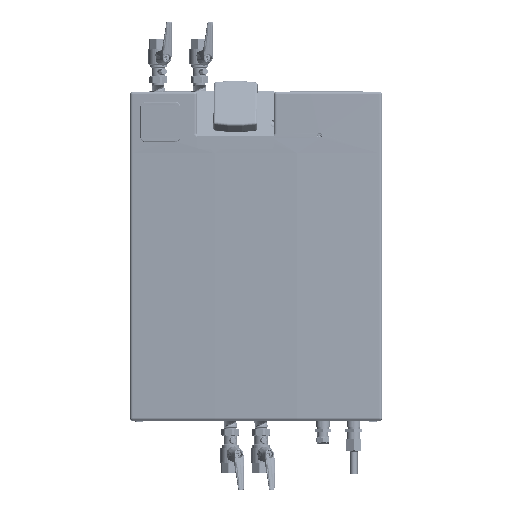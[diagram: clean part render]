
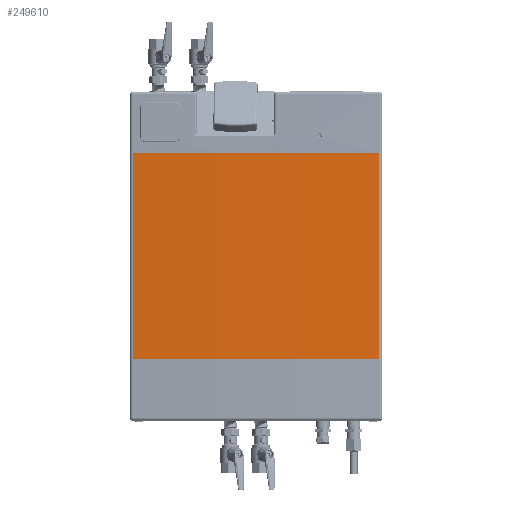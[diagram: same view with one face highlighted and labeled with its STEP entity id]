
A CAD part, top view. The second image highlights one B-rep face of the part: STEP entity #249610.
In plain terms, the highlighted cylindrical face has radius 5005.08 mm (diameter 10010.2 mm), a partial arc.
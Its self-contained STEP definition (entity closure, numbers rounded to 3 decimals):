
#28394=CIRCLE('',#271577,5005.083);
#28395=CIRCLE('',#271578,5005.083);
#32809=CYLINDRICAL_SURFACE('',#271576,5005.083);
#45417=FACE_OUTER_BOUND('',#62128,.T.);
#62128=EDGE_LOOP('',(#218943,#218944,#218945,#218946));
#79694=LINE('',#537988,#98663);
#79695=LINE('',#537994,#98664);
#98663=VECTOR('',#329137,400.);
#98664=VECTOR('',#329144,400.);
#121405=VERTEX_POINT('',#537985);
#121406=VERTEX_POINT('',#537987);
#121407=VERTEX_POINT('',#537991);
#121408=VERTEX_POINT('',#537993);
#154700=EDGE_CURVE('',#121406,#121405,#79694,.T.);
#154702=EDGE_CURVE('',#121407,#121405,#28394,.T.);
#154703=EDGE_CURVE('',#121408,#121407,#79695,.T.);
#154704=EDGE_CURVE('',#121406,#121408,#28395,.T.);
#218943=ORIENTED_EDGE('',*,*,#154702,.F.);
#218944=ORIENTED_EDGE('',*,*,#154703,.F.);
#218945=ORIENTED_EDGE('',*,*,#154704,.F.);
#218946=ORIENTED_EDGE('',*,*,#154700,.T.);
#249610=ADVANCED_FACE('',(#45417),#32809,.T.);
#271576=AXIS2_PLACEMENT_3D('',#537990,#329140,#329141);
#271577=AXIS2_PLACEMENT_3D('',#537992,#329142,#329143);
#271578=AXIS2_PLACEMENT_3D('',#537995,#329145,#329146);
#329137=DIRECTION('',(0.,0.,1.));
#329140=DIRECTION('center_axis',(0.,0.,1.));
#329141=DIRECTION('ref_axis',(-0.048,-0.999,0.));
#329142=DIRECTION('center_axis',(0.,0.,1.));
#329143=DIRECTION('ref_axis',(-0.048,-0.999,0.));
#329144=DIRECTION('',(0.,0.,1.));
#329145=DIRECTION('center_axis',(0.,0.,-1.));
#329146=DIRECTION('ref_axis',(-0.048,-0.999,0.));
#537985=CARTESIAN_POINT('',(-240.24,4999.314,400.));
#537987=CARTESIAN_POINT('',(-240.24,4999.314,0.));
#537988=CARTESIAN_POINT('',(-240.24,4999.314,0.));
#537990=CARTESIAN_POINT('Origin',(0.,0.,0.));
#537991=CARTESIAN_POINT('',(240.24,4999.314,400.));
#537992=CARTESIAN_POINT('Origin',(0.,0.,400.));
#537993=CARTESIAN_POINT('',(240.24,4999.314,0.));
#537994=CARTESIAN_POINT('',(240.24,4999.314,0.));
#537995=CARTESIAN_POINT('Origin',(0.,0.,0.));
